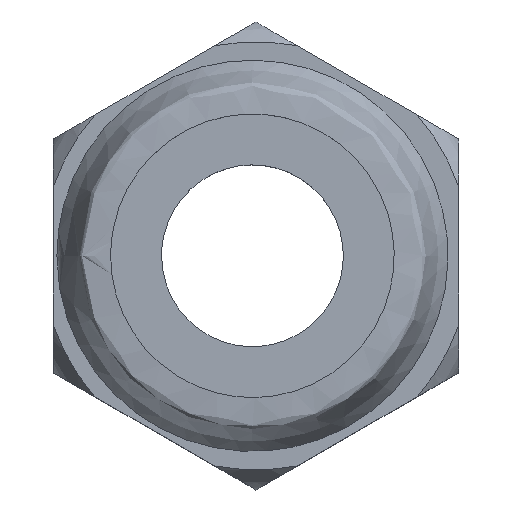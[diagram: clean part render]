
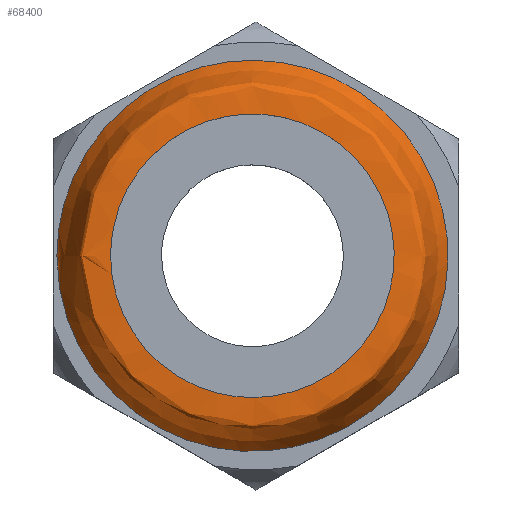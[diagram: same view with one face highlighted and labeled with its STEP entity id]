
A CAD part, top view. The second image highlights one B-rep face of the part: STEP entity #68400.
In plain terms, the highlighted free-form (B-spline) face has degree [2, 3] with [9, 6] control points.
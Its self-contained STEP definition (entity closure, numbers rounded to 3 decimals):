
#67160 = CARTESIAN_POINT ('', (1.412, 5.773, 5.55));
#67170 = VERTEX_POINT ('', #67160);
#67230 = CARTESIAN_POINT ('', (1.412, 5.773, 5.55));
#67240 = CARTESIAN_POINT ('', (1.412, 2.273, 5.55));
#67250 = CARTESIAN_POINT ('', (4.912, 2.273, 5.55));
#67260 = CARTESIAN_POINT ('', (8.412, 2.273, 5.55));
#67270 = CARTESIAN_POINT ('', (8.412, 5.773, 5.55));
#67280 = CARTESIAN_POINT ('', (8.412, 9.273, 5.55));
#67290 = CARTESIAN_POINT ('', (4.912, 9.273, 5.55));
#67300 = CARTESIAN_POINT ('', (1.412, 9.273, 5.55));
#67310 = CARTESIAN_POINT ('', (1.412, 5.773, 5.55));
#67320 = (
   BOUNDED_CURVE ()
   B_SPLINE_CURVE (2, (#67230, #67240, #67250, #67260, #67270, #67280, #67290, #67300, #67310), .UNSPECIFIED., .T., .U.)
   B_SPLINE_CURVE_WITH_KNOTS ((3, 2, 2, 2, 3), (0., 0.25, 0.5, 0.75, 1.), .UNSPECIFIED.)
   CURVE ()
   GEOMETRIC_REPRESENTATION_ITEM ()
   RATIONAL_B_SPLINE_CURVE ((1., 0.707, 1., 0.707, 1., 0.707, 1., 0.707, 1.))
   REPRESENTATION_ITEM ('')
);
#67330 = EDGE_CURVE ('', #67170, #67170, #67320, .T.);
#67580 = ORIENTED_EDGE ('', *, *, #67330, .F.);
#67590 = CARTESIAN_POINT ('', (0.086, 5.773, 4.));
#67600 = VERTEX_POINT ('', #67590);
#67610 = CARTESIAN_POINT ('', (0.086, 5.773, 4.));
#67620 = CARTESIAN_POINT ('', (0.259, 5.773, 4.111));
#67630 = CARTESIAN_POINT ('', (0.607, 5.773, 5.369));
#67640 = CARTESIAN_POINT ('', (0.67, 5.773, 5.491));
#67650 = CARTESIAN_POINT ('', (0.902, 5.773, 5.55));
#67660 = CARTESIAN_POINT ('', (1.412, 5.773, 5.55));
#67670 = B_SPLINE_CURVE_WITH_KNOTS ('', 3, (#67610, #67620, #67630, #67640, #67650, #67660), .UNSPECIFIED., .F., .U., (4, 1, 1, 4), (2.877, 3.877, 4.877, 5.877), .UNSPECIFIED.);
#67680 = EDGE_CURVE ('', #67600, #67170, #67670, .T.);
#67690 = ORIENTED_EDGE ('', *, *, #67680, .F.);
#67700 = CARTESIAN_POINT ('', (0.086, 5.773, 4.));
#67710 = CARTESIAN_POINT ('', (0.086, 0.947, 4.));
#67720 = CARTESIAN_POINT ('', (4.912, 0.947, 4.));
#67730 = CARTESIAN_POINT ('', (9.738, 0.947, 4.));
#67740 = CARTESIAN_POINT ('', (9.738, 5.773, 4.));
#67750 = CARTESIAN_POINT ('', (9.738, 10.6, 4.));
#67760 = CARTESIAN_POINT ('', (4.912, 10.6, 4.));
#67770 = CARTESIAN_POINT ('', (0.086, 10.6, 4.));
#67780 = CARTESIAN_POINT ('', (0.086, 5.773, 4.));
#67790 = (
   BOUNDED_CURVE ()
   B_SPLINE_CURVE (2, (#67700, #67710, #67720, #67730, #67740, #67750, #67760, #67770, #67780), .UNSPECIFIED., .T., .U.)
   B_SPLINE_CURVE_WITH_KNOTS ((3, 2, 2, 2, 3), (0., 0.25, 0.5, 0.75, 1.), .UNSPECIFIED.)
   CURVE ()
   GEOMETRIC_REPRESENTATION_ITEM ()
   RATIONAL_B_SPLINE_CURVE ((1., 0.707, 1., 0.707, 1., 0.707, 1., 0.707, 1.))
   REPRESENTATION_ITEM ('')
);
#67800 = EDGE_CURVE ('', #67600, #67600, #67790, .T.);
#67810 = ORIENTED_EDGE ('', *, *, #67800, .T.);
#67820 = ORIENTED_EDGE ('', *, *, #67680, .T.);
#67830 = EDGE_LOOP ('', (#67580, #67690, #67810, #67820));
#67840 = FACE_OUTER_BOUND ('', #67830, .T.);
#67850 = CARTESIAN_POINT ('', (0.086, 5.773, 4.));
#67860 = CARTESIAN_POINT ('', (0.259, 5.773, 4.111));
#67870 = CARTESIAN_POINT ('', (0.607, 5.773, 5.369));
#67880 = CARTESIAN_POINT ('', (0.67, 5.773, 5.491));
#67890 = CARTESIAN_POINT ('', (0.902, 5.773, 5.55));
#67900 = CARTESIAN_POINT ('', (1.412, 5.773, 5.55));
#67910 = CARTESIAN_POINT ('', (0.086, 0.947, 4.));
#67920 = CARTESIAN_POINT ('', (0.259, 1.121, 4.111));
#67930 = CARTESIAN_POINT ('', (0.607, 1.469, 5.369));
#67940 = CARTESIAN_POINT ('', (0.67, 1.531, 5.491));
#67950 = CARTESIAN_POINT ('', (0.902, 1.764, 5.55));
#67960 = CARTESIAN_POINT ('', (1.412, 2.273, 5.55));
#67970 = CARTESIAN_POINT ('', (4.912, 0.947, 4.));
#67980 = CARTESIAN_POINT ('', (4.912, 1.121, 4.111));
#67990 = CARTESIAN_POINT ('', (4.912, 1.469, 5.369));
#68000 = CARTESIAN_POINT ('', (4.912, 1.531, 5.491));
#68010 = CARTESIAN_POINT ('', (4.912, 1.764, 5.55));
#68020 = CARTESIAN_POINT ('', (4.912, 2.273, 5.55));
#68030 = CARTESIAN_POINT ('', (9.738, 0.947, 4.));
#68040 = CARTESIAN_POINT ('', (9.565, 1.121, 4.111));
#68050 = CARTESIAN_POINT ('', (9.217, 1.469, 5.369));
#68060 = CARTESIAN_POINT ('', (9.154, 1.531, 5.491));
#68070 = CARTESIAN_POINT ('', (8.921, 1.764, 5.55));
#68080 = CARTESIAN_POINT ('', (8.412, 2.273, 5.55));
#68090 = CARTESIAN_POINT ('', (9.738, 5.773, 4.));
#68100 = CARTESIAN_POINT ('', (9.565, 5.773, 4.111));
#68110 = CARTESIAN_POINT ('', (9.217, 5.773, 5.369));
#68120 = CARTESIAN_POINT ('', (9.154, 5.773, 5.491));
#68130 = CARTESIAN_POINT ('', (8.921, 5.773, 5.55));
#68140 = CARTESIAN_POINT ('', (8.412, 5.773, 5.55));
#68150 = CARTESIAN_POINT ('', (9.738, 10.6, 4.));
#68160 = CARTESIAN_POINT ('', (9.565, 10.426, 4.111));
#68170 = CARTESIAN_POINT ('', (9.217, 10.078, 5.369));
#68180 = CARTESIAN_POINT ('', (9.154, 10.016, 5.491));
#68190 = CARTESIAN_POINT ('', (8.921, 9.783, 5.55));
#68200 = CARTESIAN_POINT ('', (8.412, 9.273, 5.55));
#68210 = CARTESIAN_POINT ('', (4.912, 10.6, 4.));
#68220 = CARTESIAN_POINT ('', (4.912, 10.426, 4.111));
#68230 = CARTESIAN_POINT ('', (4.912, 10.078, 5.369));
#68240 = CARTESIAN_POINT ('', (4.912, 10.016, 5.491));
#68250 = CARTESIAN_POINT ('', (4.912, 9.783, 5.55));
#68260 = CARTESIAN_POINT ('', (4.912, 9.273, 5.55));
#68270 = CARTESIAN_POINT ('', (0.086, 10.6, 4.));
#68280 = CARTESIAN_POINT ('', (0.259, 10.426, 4.111));
#68290 = CARTESIAN_POINT ('', (0.607, 10.078, 5.369));
#68300 = CARTESIAN_POINT ('', (0.67, 10.016, 5.491));
#68310 = CARTESIAN_POINT ('', (0.902, 9.783, 5.55));
#68320 = CARTESIAN_POINT ('', (1.412, 9.273, 5.55));
#68330 = CARTESIAN_POINT ('', (0.086, 5.773, 4.));
#68340 = CARTESIAN_POINT ('', (0.259, 5.773, 4.111));
#68350 = CARTESIAN_POINT ('', (0.607, 5.773, 5.369));
#68360 = CARTESIAN_POINT ('', (0.67, 5.773, 5.491));
#68370 = CARTESIAN_POINT ('', (0.902, 5.773, 5.55));
#68380 = CARTESIAN_POINT ('', (1.412, 5.773, 5.55));
#68390 = (
   BOUNDED_SURFACE ()
   B_SPLINE_SURFACE (2, 3, ((#67850, #67860, #67870, #67880, #67890, #67900), (#67910, #67920, #67930, #67940, #67950, #67960), (#67970, #67980, #67990, #68000, #68010, #68020), (#68030, #68040, #68050, #68060, #68070, #68080), (#68090, #68100, #68110, #68120, #68130, #68140), (#68150, #68160, #68170, #68180, #68190, #68200), (#68210, #68220, #68230, #68240, #68250, #68260), (#68270, #68280, #68290, #68300, #68310, #68320), (#68330, #68340, #68350, #68360, #68370, #68380)), .UNSPECIFIED., .T., .F., .U.)
   B_SPLINE_SURFACE_WITH_KNOTS ((3, 2, 2, 2, 3), (4, 1, 1, 4), (0., 0.25, 0.5, 0.75, 1.), (2.877, 3.877, 4.877, 5.877), .UNSPECIFIED.)
   SURFACE ()
   GEOMETRIC_REPRESENTATION_ITEM ()
   RATIONAL_B_SPLINE_SURFACE (((1., 1., 1., 1., 1., 1.), (0.707, 0.707, 0.707, 0.707, 0.707, 0.707), (1., 1., 1., 1., 1., 1.), (0.707, 0.707, 0.707, 0.707, 0.707, 0.707), (1., 1., 1., 1., 1., 1.), (0.707, 0.707, 0.707, 0.707, 0.707, 0.707), (1., 1., 1., 1., 1., 1.), (0.707, 0.707, 0.707, 0.707, 0.707, 0.707), (1., 1., 1., 1., 1., 1.)))
   REPRESENTATION_ITEM ('')
);
#68400 = ADVANCED_FACE ('', (#67840), #68390, .T.);
